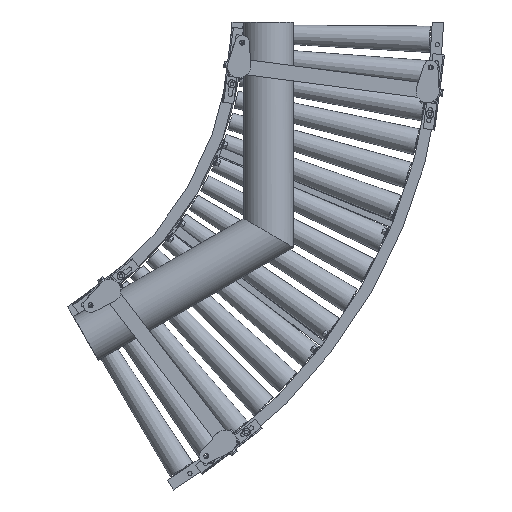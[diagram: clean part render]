
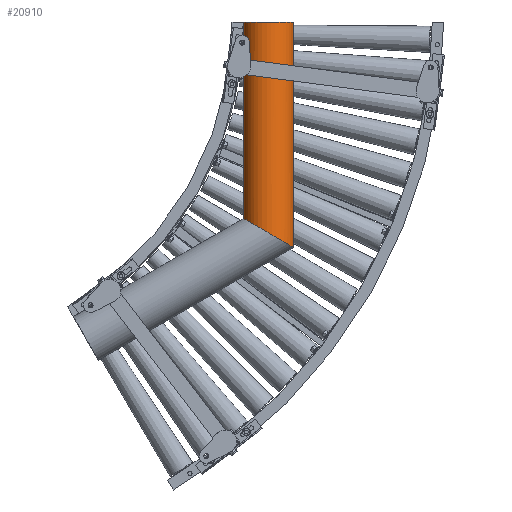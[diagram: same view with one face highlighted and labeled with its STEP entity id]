
A CAD part, front view. The second image highlights one B-rep face of the part: STEP entity #20910.
In plain terms, the highlighted cylindrical face has radius 67.024 mm (diameter 134.048 mm), a partial arc.
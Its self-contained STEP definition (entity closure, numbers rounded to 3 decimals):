
#1059 = VERTEX_POINT ( 'NONE', #67634 ) ;
#4253 = DIRECTION ( 'NONE',  ( 0., 0., -1. ) ) ;
#5638 = ORIENTED_EDGE ( 'NONE', *, *, #48914, .T. ) ;
#8324 = VERTEX_POINT ( 'NONE', #88258 ) ;
#10227 = LINE ( 'NONE', #73334, #87442 ) ;
#12548 = DIRECTION ( 'NONE',  ( 0., 0., 1. ) ) ;
#16840 = VERTEX_POINT ( 'NONE', #59566 ) ;
#19741 = AXIS2_PLACEMENT_3D ( 'NONE', #46167, #121392, #55692 ) ;
#20002 = DIRECTION ( 'NONE',  ( 1., 0., 0. ) ) ;
#20910 = ADVANCED_FACE ( 'NONE', ( #33637 ), #119821, .T. ) ;
#22935 = CARTESIAN_POINT ( 'NONE',  ( 1033.3, -166.5, 0. ) ) ;
#23761 = CIRCLE ( 'NONE', #56421, 67.024 ) ;
#25069 = EDGE_LOOP ( 'NONE', ( #112737, #54803, #5638, #36026 ) ) ;
#25495 =( BOUNDED_CURVE ( )  B_SPLINE_CURVE ( 3, ( #112783, #122354, #45089, #64992 ),
 .UNSPECIFIED., .F., .F. ) 
 B_SPLINE_CURVE_WITH_KNOTS ( ( 4, 4 ),
 ( 0.147, 2.994 ),
 .UNSPECIFIED. ) 
 CURVE ( )  GEOMETRIC_REPRESENTATION_ITEM ( )  RATIONAL_B_SPLINE_CURVE ( ( 1., 0.431, 0.431, 1. ) ) 
 REPRESENTATION_ITEM ( '' )  );
#30143 = EDGE_CURVE ( 'NONE', #16840, #8324, #86062, .T. ) ;
#33637 = FACE_OUTER_BOUND ( 'NONE', #25069, .T. ) ;
#36026 = ORIENTED_EDGE ( 'NONE', *, *, #58364, .F. ) ;
#45089 = CARTESIAN_POINT ( 'NONE',  ( 915.73, -267.933, -528.697 ) ) ;
#46167 = CARTESIAN_POINT ( 'NONE',  ( 967., -156.676, 0. ) ) ;
#48914 = EDGE_CURVE ( 'NONE', #59166, #1059, #10227, .T. ) ;
#54803 = ORIENTED_EDGE ( 'NONE', *, *, #69051, .F. ) ;
#55692 = DIRECTION ( 'NONE',  ( -1., 0., 0. ) ) ;
#56421 = AXIS2_PLACEMENT_3D ( 'NONE', #106452, #12548, #20002 ) ;
#58364 = EDGE_CURVE ( 'NONE', #8324, #1059, #25495, .T. ) ;
#59166 = VERTEX_POINT ( 'NONE', #105526 ) ;
#59566 = CARTESIAN_POINT ( 'NONE',  ( 1033.3, -166.5, 0. ) ) ;
#64992 = CARTESIAN_POINT ( 'NONE',  ( 900.7, -166.5, -520.019 ) ) ;
#67634 = CARTESIAN_POINT ( 'NONE',  ( 900.7, -166.5, -520.019 ) ) ;
#69051 = EDGE_CURVE ( 'NONE', #59166, #16840, #23761, .T. ) ;
#73334 = CARTESIAN_POINT ( 'NONE',  ( 900.7, -166.5, 0. ) ) ;
#86062 = LINE ( 'NONE', #22935, #101066 ) ;
#87442 = VECTOR ( 'NONE', #120392, 1000. ) ;
#88258 = CARTESIAN_POINT ( 'NONE',  ( 1033.3, -166.5, -596.576 ) ) ;
#101066 = VECTOR ( 'NONE', #4253, 1000. ) ;
#105526 = CARTESIAN_POINT ( 'NONE',  ( 900.7, -166.5, 0. ) ) ;
#106452 = CARTESIAN_POINT ( 'NONE',  ( 967., -156.676, 0. ) ) ;
#112737 = ORIENTED_EDGE ( 'NONE', *, *, #30143, .F. ) ;
#112783 = CARTESIAN_POINT ( 'NONE',  ( 1033.3, -166.5, -596.576 ) ) ;
#119821 = CYLINDRICAL_SURFACE ( 'NONE', #19741, 67.024 ) ;
#120392 = DIRECTION ( 'NONE',  ( 0., 0., -1. ) ) ;
#121392 = DIRECTION ( 'NONE',  ( 0., 0., -1. ) ) ;
#122354 = CARTESIAN_POINT ( 'NONE',  ( 1018.27, -267.933, -587.899 ) ) ;
